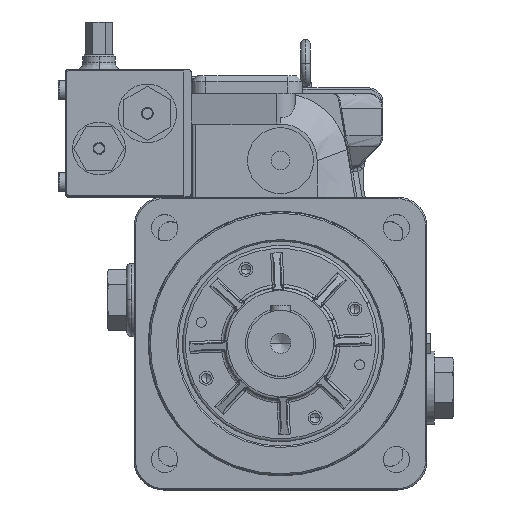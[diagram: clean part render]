
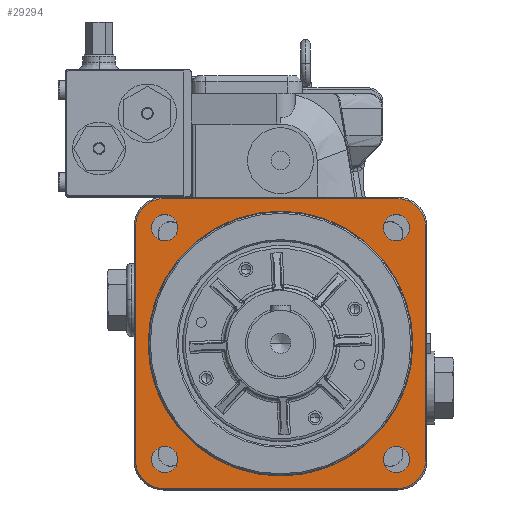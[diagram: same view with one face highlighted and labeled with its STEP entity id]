
A CAD part, top view. The second image highlights one B-rep face of the part: STEP entity #29294.
In plain terms, the highlighted planar face has unit normal (0, 0, 1).
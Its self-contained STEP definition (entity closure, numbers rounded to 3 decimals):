
#7194=CARTESIAN_POINT('',(-79.196,70.196,23.));
#7195=VERTEX_POINT('',#7194);
#7211=CARTESIAN_POINT('',(-79.196,88.196,23.));
#7212=VERTEX_POINT('',#7211);
#7219=CARTESIAN_POINT('',(-79.196,79.196,23.));
#7220=DIRECTION('',(0.0,0.0,-1.0));
#7221=DIRECTION('',(0.0,-1.0,0.0));
#7222=AXIS2_PLACEMENT_3D('',#7219,#7220,#7221);
#7223=CIRCLE('',#7222,9.0);
#7224=EDGE_CURVE('',#7195,#7212,#7223,.T.);
#7236=CARTESIAN_POINT('',(-70.196,-79.196,23.));
#7237=VERTEX_POINT('',#7236);
#7253=CARTESIAN_POINT('',(-88.196,-79.196,23.));
#7254=VERTEX_POINT('',#7253);
#7261=CARTESIAN_POINT('',(-79.196,-79.196,23.));
#7262=DIRECTION('',(0.0,0.0,-1.0));
#7263=DIRECTION('',(1.0,0.0,0.0));
#7264=AXIS2_PLACEMENT_3D('',#7261,#7262,#7263);
#7265=CIRCLE('',#7264,9.0);
#7266=EDGE_CURVE('',#7237,#7254,#7265,.T.);
#7278=CARTESIAN_POINT('',(79.196,-70.196,23.));
#7279=VERTEX_POINT('',#7278);
#7295=CARTESIAN_POINT('',(79.196,-88.196,23.));
#7296=VERTEX_POINT('',#7295);
#7303=CARTESIAN_POINT('',(79.196,-79.196,23.));
#7304=DIRECTION('',(0.0,0.0,-1.0));
#7305=DIRECTION('',(0.0,1.0,0.0));
#7306=AXIS2_PLACEMENT_3D('',#7303,#7304,#7305);
#7307=CIRCLE('',#7306,9.0);
#7308=EDGE_CURVE('',#7279,#7296,#7307,.T.);
#7433=CARTESIAN_POINT('',(70.196,79.196,23.));
#7434=VERTEX_POINT('',#7433);
#7450=CARTESIAN_POINT('',(88.196,79.196,23.));
#7451=VERTEX_POINT('',#7450);
#7458=CARTESIAN_POINT('',(79.196,79.196,23.));
#7459=DIRECTION('',(0.0,0.0,-1.0));
#7460=DIRECTION('',(-1.0,0.0,0.0));
#7461=AXIS2_PLACEMENT_3D('',#7458,#7459,#7460);
#7462=CIRCLE('',#7461,9.0);
#7463=EDGE_CURVE('',#7434,#7451,#7462,.T.);
#10068=CARTESIAN_POINT('',(90.4,0.,23.));
#10069=VERTEX_POINT('',#10068);
#10078=CARTESIAN_POINT('',(-90.4,0.,23.0));
#10079=VERTEX_POINT('',#10078);
#10087=CARTESIAN_POINT('',(0.0,0.0,23.));
#10088=DIRECTION('',(0.0,0.0,1.0));
#10089=DIRECTION('',(-1.0,0.0,0.0));
#10090=AXIS2_PLACEMENT_3D('',#10087,#10088,#10089);
#10091=CIRCLE('',#10090,90.4);
#10092=EDGE_CURVE('',#10079,#10069,#10091,.T.);
#29077=CARTESIAN_POINT('',(0.0,0.0,23.));
#29078=DIRECTION('',(0.0,0.0,1.0));
#29079=DIRECTION('',(-1.0,0.0,0.0));
#29080=AXIS2_PLACEMENT_3D('',#29077,#29078,#29079);
#29081=CIRCLE('',#29080,90.4);
#29082=EDGE_CURVE('',#10069,#10079,#29081,.T.);
#29175=CARTESIAN_POINT('',(0.,0.,23.));
#29176=DIRECTION('',(0.0,0.0,1.0));
#29177=DIRECTION('',(1.0,0.0,0.0));
#29178=AXIS2_PLACEMENT_3D('',#29175,#29176,#29177);
#29179=PLANE('',#29178);
#29180=CARTESIAN_POINT('',(-80.0,99.0,23.));
#29181=VERTEX_POINT('',#29180);
#29182=CARTESIAN_POINT('',(80.0,99.0,23.));
#29183=VERTEX_POINT('',#29182);
#29184=CARTESIAN_POINT('',(-80.0,99.0,23.));
#29185=DIRECTION('',(1.0,0.0,0.0));
#29186=VECTOR('',#29185,160.0);
#29187=LINE('',#29184,#29186);
#29188=EDGE_CURVE('',#29181,#29183,#29187,.T.);
#29189=ORIENTED_EDGE('',*,*,#29188,.F.);
#29190=CARTESIAN_POINT('',(-99.,80.0,23.));
#29191=VERTEX_POINT('',#29190);
#29192=CARTESIAN_POINT('',(-80.,80.,23.));
#29193=DIRECTION('',(0.0,0.0,-1.0));
#29194=DIRECTION('',(0.0,1.0,0.0));
#29195=AXIS2_PLACEMENT_3D('',#29192,#29193,#29194);
#29196=CIRCLE('',#29195,19.0);
#29197=EDGE_CURVE('',#29191,#29181,#29196,.T.);
#29198=ORIENTED_EDGE('',*,*,#29197,.F.);
#29199=CARTESIAN_POINT('',(-99.,-80.0,23.));
#29200=VERTEX_POINT('',#29199);
#29201=CARTESIAN_POINT('',(-99.,-80.0,23.));
#29202=DIRECTION('',(0.0,1.0,0.0));
#29203=VECTOR('',#29202,160.0);
#29204=LINE('',#29201,#29203);
#29205=EDGE_CURVE('',#29200,#29191,#29204,.T.);
#29206=ORIENTED_EDGE('',*,*,#29205,.F.);
#29207=CARTESIAN_POINT('',(-80.,-99.0,23.));
#29208=VERTEX_POINT('',#29207);
#29209=CARTESIAN_POINT('',(-80.,-80.,23.));
#29210=DIRECTION('',(0.0,0.0,-1.0));
#29211=DIRECTION('',(-1.0,0.0,0.0));
#29212=AXIS2_PLACEMENT_3D('',#29209,#29210,#29211);
#29213=CIRCLE('',#29212,19.);
#29214=EDGE_CURVE('',#29208,#29200,#29213,.T.);
#29215=ORIENTED_EDGE('',*,*,#29214,.F.);
#29216=CARTESIAN_POINT('',(80.,-99.,23.));
#29217=VERTEX_POINT('',#29216);
#29218=CARTESIAN_POINT('',(80.,-99.,23.));
#29219=DIRECTION('',(-1.0,0.0,0.0));
#29220=VECTOR('',#29219,160.);
#29221=LINE('',#29218,#29220);
#29222=EDGE_CURVE('',#29217,#29208,#29221,.T.);
#29223=ORIENTED_EDGE('',*,*,#29222,.F.);
#29224=CARTESIAN_POINT('',(99.,-80.0,23.));
#29225=VERTEX_POINT('',#29224);
#29226=CARTESIAN_POINT('',(80.,-80.,23.));
#29227=DIRECTION('',(0.0,0.0,-1.0));
#29228=DIRECTION('',(0.0,-1.0,0.0));
#29229=AXIS2_PLACEMENT_3D('',#29226,#29227,#29228);
#29230=CIRCLE('',#29229,19.);
#29231=EDGE_CURVE('',#29225,#29217,#29230,.T.);
#29232=ORIENTED_EDGE('',*,*,#29231,.F.);
#29233=CARTESIAN_POINT('',(99.,80.0,23.));
#29234=VERTEX_POINT('',#29233);
#29235=CARTESIAN_POINT('',(99.,80.0,23.));
#29236=DIRECTION('',(0.0,-1.0,0.0));
#29237=VECTOR('',#29236,160.0);
#29238=LINE('',#29235,#29237);
#29239=EDGE_CURVE('',#29234,#29225,#29238,.T.);
#29240=ORIENTED_EDGE('',*,*,#29239,.F.);
#29241=CARTESIAN_POINT('',(80.,80.,23.));
#29242=DIRECTION('',(0.0,0.0,-1.0));
#29243=DIRECTION('',(1.0,0.0,0.0));
#29244=AXIS2_PLACEMENT_3D('',#29241,#29242,#29243);
#29245=CIRCLE('',#29244,19.0);
#29246=EDGE_CURVE('',#29183,#29234,#29245,.T.);
#29247=ORIENTED_EDGE('',*,*,#29246,.F.);
#29248=EDGE_LOOP('',(#29189,#29198,#29206,#29215,#29223,#29232,#29240,#29247));
#29249=FACE_OUTER_BOUND('',#29248,.T.);
#29250=CARTESIAN_POINT('',(-79.196,79.196,23.));
#29251=DIRECTION('',(0.0,0.0,-1.0));
#29252=DIRECTION('',(0.0,-1.0,0.0));
#29253=AXIS2_PLACEMENT_3D('',#29250,#29251,#29252);
#29254=CIRCLE('',#29253,9.0);
#29255=EDGE_CURVE('',#7212,#7195,#29254,.T.);
#29256=ORIENTED_EDGE('',*,*,#29255,.T.);
#29257=ORIENTED_EDGE('',*,*,#7224,.T.);
#29258=EDGE_LOOP('',(#29256,#29257));
#29259=FACE_BOUND('',#29258,.T.);
#29260=CARTESIAN_POINT('',(-79.196,-79.196,23.));
#29261=DIRECTION('',(0.0,0.0,-1.0));
#29262=DIRECTION('',(1.0,0.0,0.0));
#29263=AXIS2_PLACEMENT_3D('',#29260,#29261,#29262);
#29264=CIRCLE('',#29263,9.0);
#29265=EDGE_CURVE('',#7254,#7237,#29264,.T.);
#29266=ORIENTED_EDGE('',*,*,#29265,.T.);
#29267=ORIENTED_EDGE('',*,*,#7266,.T.);
#29268=EDGE_LOOP('',(#29266,#29267));
#29269=FACE_BOUND('',#29268,.T.);
#29270=CARTESIAN_POINT('',(79.196,-79.196,23.));
#29271=DIRECTION('',(0.0,0.0,-1.0));
#29272=DIRECTION('',(0.0,1.0,0.0));
#29273=AXIS2_PLACEMENT_3D('',#29270,#29271,#29272);
#29274=CIRCLE('',#29273,9.0);
#29275=EDGE_CURVE('',#7296,#7279,#29274,.T.);
#29276=ORIENTED_EDGE('',*,*,#29275,.T.);
#29277=ORIENTED_EDGE('',*,*,#7308,.T.);
#29278=EDGE_LOOP('',(#29276,#29277));
#29279=FACE_BOUND('',#29278,.T.);
#29280=CARTESIAN_POINT('',(79.196,79.196,23.));
#29281=DIRECTION('',(0.0,0.0,-1.0));
#29282=DIRECTION('',(-1.0,0.0,0.0));
#29283=AXIS2_PLACEMENT_3D('',#29280,#29281,#29282);
#29284=CIRCLE('',#29283,9.0);
#29285=EDGE_CURVE('',#7451,#7434,#29284,.T.);
#29286=ORIENTED_EDGE('',*,*,#29285,.T.);
#29287=ORIENTED_EDGE('',*,*,#7463,.T.);
#29288=EDGE_LOOP('',(#29286,#29287));
#29289=FACE_BOUND('',#29288,.T.);
#29290=ORIENTED_EDGE('',*,*,#29082,.F.);
#29291=ORIENTED_EDGE('',*,*,#10092,.F.);
#29292=EDGE_LOOP('',(#29290,#29291));
#29293=FACE_BOUND('',#29292,.T.);
#29294=ADVANCED_FACE('',(#29249,#29259,#29269,#29279,#29289,#29293),#29179,.T.);
